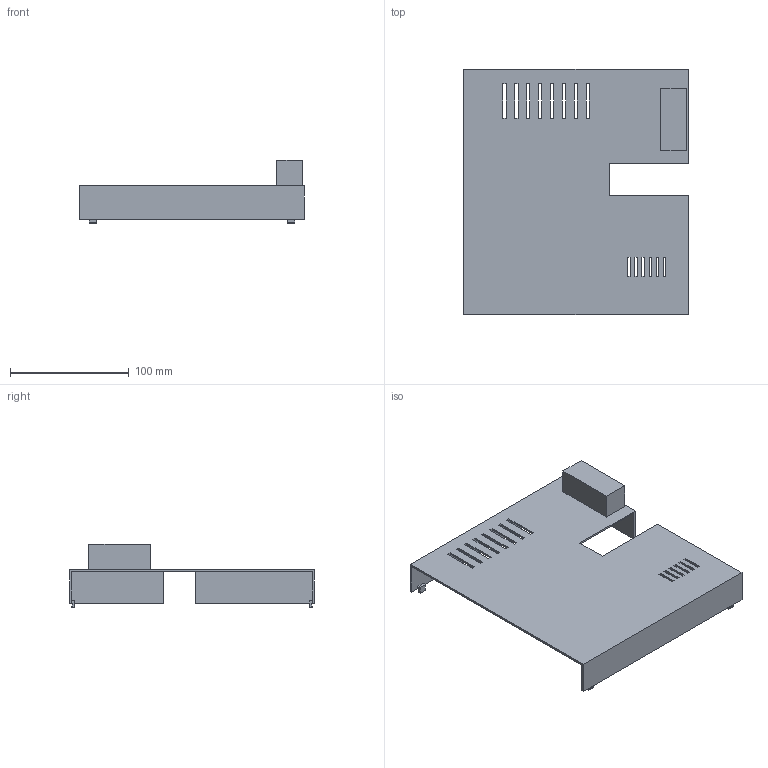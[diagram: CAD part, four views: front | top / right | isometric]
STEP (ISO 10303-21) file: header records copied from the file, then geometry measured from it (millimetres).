
FILE_DESCRIPTION(('Open CASCADE Model'),'2;1');
FILE_NAME('Open CASCADE Shape Model','2026-11-19T20:40:30',('Author'),( 'Open CASCADE'),'Open CASCADE STEP processor 8.0','Open CASCADE 8.0' ,'Unknown');
FILE_SCHEMA(('AUTOMOTIVE_DESIGN { 1 0 10303 214 1 1 1 1 }'));
Length unit declared in the file: millimetre
Products named in the file (1): Open CASCADE STEP translator 8.0 3
Bounding box: 188.85 x 206 x 53.15 mm (x, y, z)
Volume: 80956.9 mm3; surface area: 111053 mm2
Topology: 1 solids, 1 shells, 136 faces, 384 edges, 256 vertices
Faces by surface type: plane 136
Entity records: 9026 total; most frequent: CARTESIAN_POINT 1885, DIRECTION 1086, LINE 812, VECTOR 812, ORIENTED_EDGE 768, PCURVE 768, DEFINITIONAL_REPRESENTATION 768, EDGE_CURVE 384
